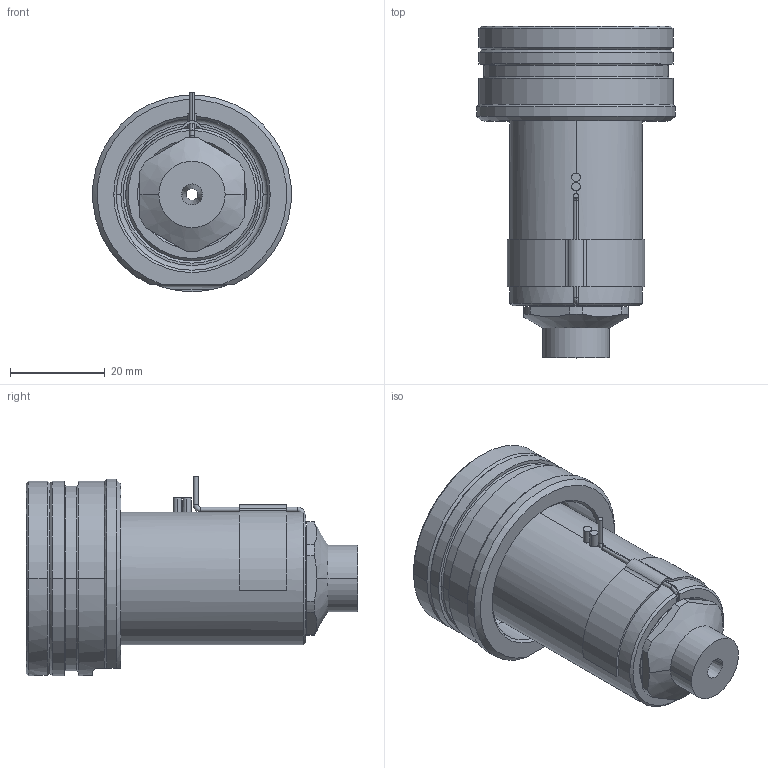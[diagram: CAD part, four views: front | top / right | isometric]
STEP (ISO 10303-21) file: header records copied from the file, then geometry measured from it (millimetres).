
FILE_DESCRIPTION((''),'2;1');
FILE_NAME('EO10_SG_SG_050_SW','2024-02-19T12:23:06',('sundharh'),(''),'CREO PARAMETRIC BY PTC INC, 2023154','CREO PARAMETRIC BY PTC INC, 2023154','');
FILE_SCHEMA(('CONFIG_CONTROL_DESIGN'));
Length unit declared in the file: millimetre
Products named in the file (1): EO10_SG_SG_050_SW
Bounding box: 41.85 x 70 x 42.02 mm (x, y, z)
Volume: 45643.6 mm3; surface area: 14181 mm2
Topology: 1 solids, 1 shells, 160 faces, 409 edges, 252 vertices
Faces by surface type: cylinder 63, plane 45, cone 29, torus 17, bspline 3, sphere 3
Entity records: 5489 total; most frequent: CARTESIAN_POINT 1540, DIRECTION 857, ORIENTED_EDGE 810, EDGE_CURVE 405, AXIS2_PLACEMENT_3D 353, VERTEX_POINT 252, CIRCLE 196, EDGE_LOOP 175
